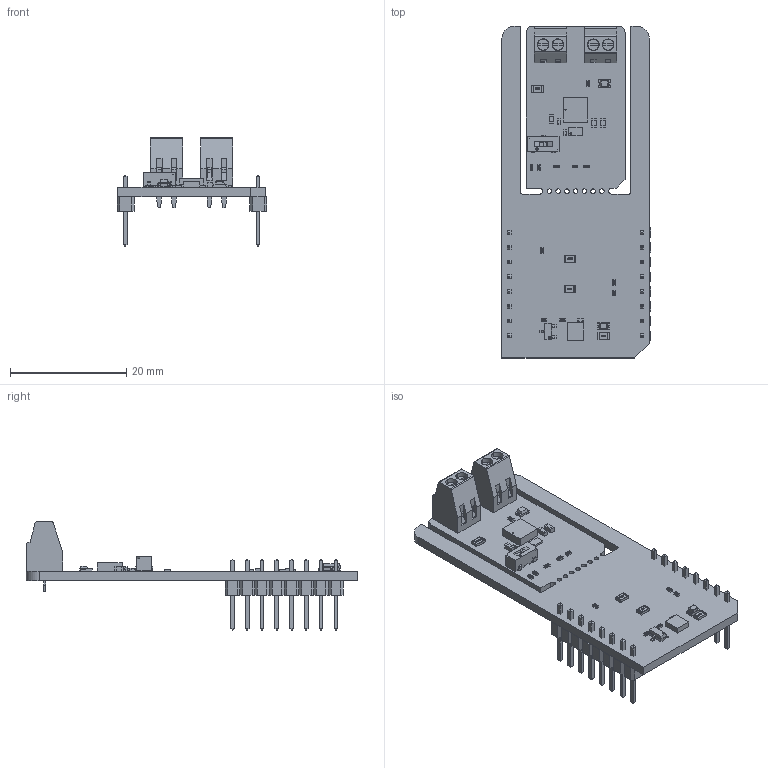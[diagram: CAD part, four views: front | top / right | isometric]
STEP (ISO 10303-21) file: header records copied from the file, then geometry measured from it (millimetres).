
FILE_DESCRIPTION(('Open CASCADE Model'),'2;1');
FILE_NAME('Open CASCADE Shape Model','2026-05-11T12:56:54',('Author'),( 'Open CASCADE'),'Open CASCADE STEP processor 7.5','Open CASCADE 7.5' ,'Unknown');
FILE_SCHEMA(('AUTOMOTIVE_DESIGN { 1 0 10303 214 1 1 1 1 }'));
Length unit declared in the file: millimetre
Products named in the file (61): PCB; Board; Open CASCADE STEP translator 7.5 1.1.1; R12; User Library-R_0402; U2; 8938494608; Cylinder; 8938494848; Sphere; 8938488560; Extruded; R1; User Library-R_0805; LD1; led_0805_green; R2; C1; User Library-SMD CAPACITOR0402; R4; Q1; SOT23-3; U1; 9590140448; MBD1; Header 1x8; Free-Models; 1240637040; User_Library-PinHeaderX5-1_PinHeaderX5_Body_1; User_Library-PinHeaderX5-1_PinHeaderX5_Pins_1; JP1; C2; User Library-SMD CAPACITOR0603; C3; C4; C5; C6; JP2; JP3; L1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
Assembly tree (96 placements, depth 7):
  PCB
    Board
      Open CASCADE STEP translator 7.5 1.1.1
    R12
      User Library-R_0402
    U2
      8938494608
        Cylinder
      8938494848  x15
        Sphere
      8938488560
        Extruded
    R1
      User Library-R_0805
    LD1
      led_0805_green
    R2
      User Library-R_0402
    C1
      User Library-SMD CAPACITOR0402
    R4
      User Library-R_0402
    Q1
      SOT23-3
    U1
      9590140448
        Extruded
    MBD1
      Header 1x8  x2
        PCB
          Free-Models
            1240637040  x2
              User_Library-PinHeaderX5-1_PinHeaderX5_Body_1
              User_Library-PinHeaderX5-1_PinHeaderX5_Pins_1
    JP1
      User Library-R_0805
    C2
      User Library-SMD CAPACITOR0603
    C3
      User Library-SMD CAPACITOR0603
    C4
      User Library-SMD CAPACITOR0603
    C5
      User Library-SMD CAPACITOR0402
    C6
      User Library-SMD CAPACITOR0402
    JP2
      User Library-R_0805
    JP3
      User Library-R_0805
    L1
      IND_XFL4015-471MEB
    LD2
      CHIPLED-0805-RED
    R3
      User Library-R_0402
    R5
      User Library-R_0402
    R6
      User Library-R_0402
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Bounding box: 25.78 x 57.15 x 18.61 mm (x, y, z)
Volume: 3094.3 mm3; surface area: 6274.5 mm2
Topology: 119 solids, 119 shells, 2742 faces, 6898 edges, 4442 vertices
Faces by surface type: plane 1981, bspline 454, cylinder 238, sphere 69
Full cylindrical faces by diameter (mm): 0.215 x1, 0.3 x1, 0.8 x7
Entity records: 33932 total; most frequent: CARTESIAN_POINT 8788, ORIENTED_EDGE 4188, DIRECTION 3956, EDGE_CURVE 2094, LINE 1682, VECTOR 1682, VERTEX_POINT 1351, AXIS2_PLACEMENT_3D 1137
